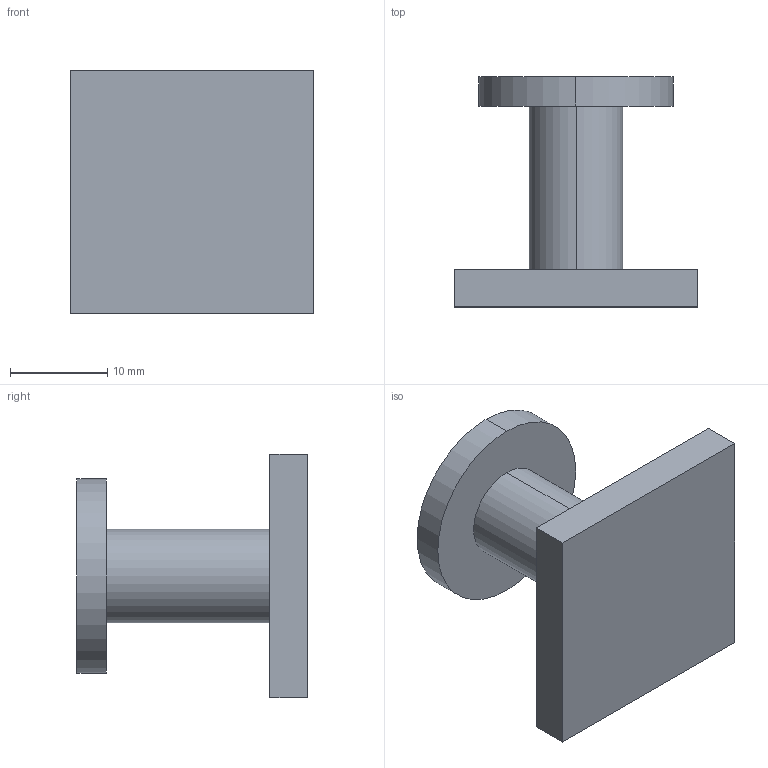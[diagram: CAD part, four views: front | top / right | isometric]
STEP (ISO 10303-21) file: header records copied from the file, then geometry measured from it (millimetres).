
FILE_DESCRIPTION( ( '' ), '1' );
FILE_NAME( 'C:/Documents and Settings/Nikhil/Desktop/Nik/Done/9113224.stp', '2013-10-23T12:23:48', ( '' ), ( '' ), ' ', ' ', ' ' );
FILE_SCHEMA( ( 'automotive_design' ) );
Length unit declared in the file: millimetre
Products named in the file (1): 1
Bounding box: 25 x 23.6 x 25 mm (x, y, z)
Volume: 4407.8 mm3; surface area: 2934.4 mm2
Topology: 1 solids, 1 shells, 15 faces, 30 edges, 20 vertices
Faces by surface type: plane 9, cylinder 6
Entity records: 790 total; most frequent: DIRECTION 74, STYLED_ITEM 66, PRESENTATION_STYLE_ASSIGNMENT 66, CARTESIAN_POINT 66, COLOUR_RGB 66, ORIENTED_EDGE 60, EDGE_CURVE 30, CURVE_STYLE 30
